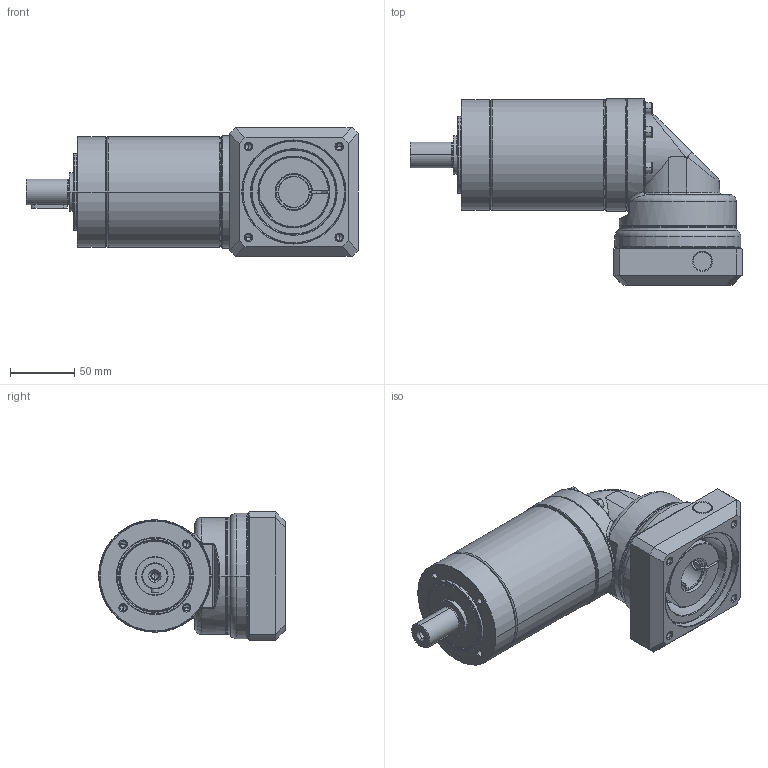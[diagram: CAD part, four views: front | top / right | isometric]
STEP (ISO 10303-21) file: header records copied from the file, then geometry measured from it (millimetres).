
FILE_DESCRIPTION((''),'2;1');
FILE_NAME('PG2R-080_3ST_24-P0411500101_ASM','2016-04-27T',('d01943'),(''),'PRO/ENGINEER BY PARAMETRIC TECHNOLOGY CORPORATION, 2008410','PRO/ENGINEER BY PARAMETRIC TECHNOLOGY CORPORATION, 2008410','');
FILE_SCHEMA(('CONFIG_CONTROL_DESIGN'));
Length unit declared in the file: millimetre
Products named in the file (12): P1325310001; P0273300001; P0350301103; P1349300001; P1017300001; P0713302001; P0503500008; P1350300201; P0411500101; P1702500001; 2111BA05025; PG2R-080_3ST_24-P0411500101_ASM
Assembly tree (16 placements, depth 2):
  PG2R-080_3ST_24-P0411500101_ASM
    P1325310001
    P0273300001
    P0350301103
    P1349300001
    P1017300001
    P0713302001
    P0503500008
    P1350300201
    P0411500101
    P1702500001
    2111BA05025  x6
Bounding box: 258.5 x 145.25 x 100 mm (x, y, z)
Volume: 939334.5 mm3; surface area: 231173.9 mm2
Topology: 16 solids, 17 shells, 785 faces, 1714 edges, 994 vertices
Faces by surface type: cylinder 246, cone 216, plane 191, torus 100, bspline 32
Entity records: 22862 total; most frequent: CARTESIAN_POINT 8919, DIRECTION 3115, ORIENTED_EDGE 2676, EDGE_CURVE 1338, AXIS2_PLACEMENT_3D 1317, VERTEX_POINT 794, EDGE_LOOP 704, CIRCLE 701
